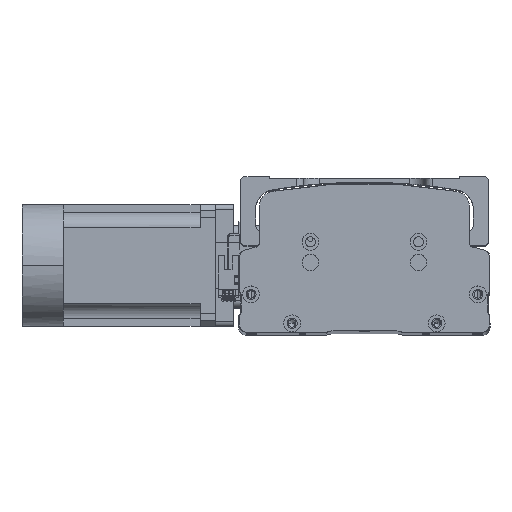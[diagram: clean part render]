
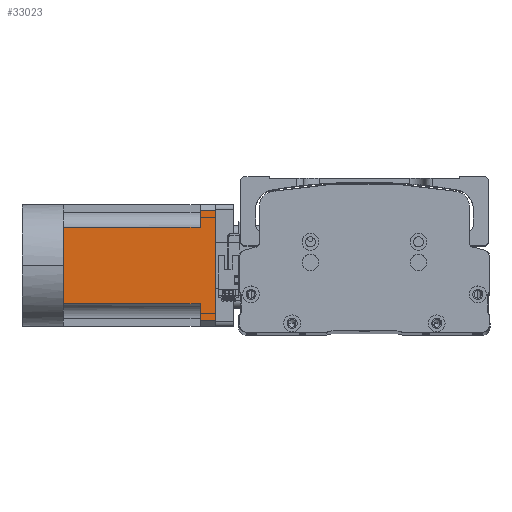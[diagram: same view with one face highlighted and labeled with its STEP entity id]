
A CAD part, top view. The second image highlights one B-rep face of the part: STEP entity #33023.
In plain terms, the highlighted planar face has unit normal (0, -0.003, 1) as drawn and (0, 0, -1) by its records, which use the part's own axes.
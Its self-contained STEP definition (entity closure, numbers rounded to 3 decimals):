
#265 = VECTOR ( 'NONE', #12258, 1000. ) ;
#1969 = EDGE_CURVE ( 'NONE', #13643, #9666, #24131, .T. ) ;
#4137 = VECTOR ( 'NONE', #6621, 1000. ) ;
#4326 = EDGE_CURVE ( 'NONE', #13643, #47612, #6948, .T. ) ;
#4775 = CARTESIAN_POINT ( 'NONE',  ( -36., 90., -40. ) ) ;
#5507 = EDGE_CURVE ( 'NONE', #34772, #7281, #46201, .T. ) ;
#5746 = DIRECTION ( 'NONE',  ( -1., 0., 0. ) ) ;
#5805 = EDGE_CURVE ( 'NONE', #16089, #47301, #48522, .T. ) ;
#6621 = DIRECTION ( 'NONE',  ( -1., 0., 0. ) ) ;
#6663 = EDGE_CURVE ( 'NONE', #47612, #34772, #8977, .T. ) ;
#6775 = DIRECTION ( 'NONE',  ( 0., -1., 0. ) ) ;
#6948 = LINE ( 'NONE', #25483, #14580 ) ;
#7281 = VERTEX_POINT ( 'NONE', #35004 ) ;
#8977 = LINE ( 'NONE', #28079, #47819 ) ;
#9125 = CARTESIAN_POINT ( 'NONE',  ( -40., 0., -40. ) ) ;
#9623 = DIRECTION ( 'NONE',  ( 0., 1., 0. ) ) ;
#9666 = VERTEX_POINT ( 'NONE', #13582 ) ;
#10178 = PLANE ( 'NONE',  #10214 ) ;
#10214 = AXIS2_PLACEMENT_3D ( 'NONE', #25273, #32905, #10340 ) ;
#10269 = LINE ( 'NONE', #27210, #265 ) ;
#10313 = EDGE_CURVE ( 'NONE', #7281, #44478, #33486, .T. ) ;
#10340 = DIRECTION ( 'NONE',  ( -1., 0., 0. ) ) ;
#10370 = VECTOR ( 'NONE', #22407, 1000. ) ;
#12258 = DIRECTION ( 'NONE',  ( 0., 1., 0. ) ) ;
#13582 = CARTESIAN_POINT ( 'NONE',  ( -36., 100., -40. ) ) ;
#13643 = VERTEX_POINT ( 'NONE', #25560 ) ;
#14580 = VECTOR ( 'NONE', #6775, 1000. ) ;
#15161 = ORIENTED_EDGE ( 'NONE', *, *, #1969, .F. ) ;
#16089 = VERTEX_POINT ( 'NONE', #26609 ) ;
#16473 = LINE ( 'NONE', #9125, #25240 ) ;
#18463 = ORIENTED_EDGE ( 'NONE', *, *, #4326, .T. ) ;
#18849 = DIRECTION ( 'NONE',  ( 0., -1., 0. ) ) ;
#20076 = ORIENTED_EDGE ( 'NONE', *, *, #6663, .T. ) ;
#22407 = DIRECTION ( 'NONE',  ( -1., 0., 0. ) ) ;
#24131 = LINE ( 'NONE', #47911, #4137 ) ;
#24206 = ORIENTED_EDGE ( 'NONE', *, *, #5805, .T. ) ;
#25039 = EDGE_CURVE ( 'NONE', #47301, #25740, #30391, .T. ) ;
#25240 = VECTOR ( 'NONE', #35448, 1000. ) ;
#25273 = CARTESIAN_POINT ( 'NONE',  ( -40., -27., -40. ) ) ;
#25483 = CARTESIAN_POINT ( 'NONE',  ( 36., -27., -40. ) ) ;
#25501 = CARTESIAN_POINT ( 'NONE',  ( -40., 0., -40. ) ) ;
#25560 = CARTESIAN_POINT ( 'NONE',  ( 36., 100., -40. ) ) ;
#25740 = VERTEX_POINT ( 'NONE', #4775 ) ;
#26029 = CARTESIAN_POINT ( 'NONE',  ( 36., 90., -40. ) ) ;
#26159 = VECTOR ( 'NONE', #18849, 1000. ) ;
#26609 = CARTESIAN_POINT ( 'NONE',  ( -25., 0., -40. ) ) ;
#26707 = FACE_OUTER_BOUND ( 'NONE', #41756, .T. ) ;
#27210 = CARTESIAN_POINT ( 'NONE',  ( -36., -27., -40. ) ) ;
#28073 = CARTESIAN_POINT ( 'NONE',  ( -25., 90., -40. ) ) ;
#28079 = CARTESIAN_POINT ( 'NONE',  ( -40., 90., -40. ) ) ;
#28994 = DIRECTION ( 'NONE',  ( -1., 0., 0. ) ) ;
#29048 = CARTESIAN_POINT ( 'NONE',  ( 25., 90., -40. ) ) ;
#30040 = CARTESIAN_POINT ( 'NONE',  ( 25., -27., -40. ) ) ;
#30391 = LINE ( 'NONE', #37252, #10370 ) ;
#31804 = EDGE_CURVE ( 'NONE', #25740, #9666, #10269, .T. ) ;
#32336 = VECTOR ( 'NONE', #28994, 1000. ) ;
#32905 = DIRECTION ( 'NONE',  ( 0., 0., -1. ) ) ;
#33023 = ADVANCED_FACE ( 'NONE', ( #26707 ), #10178, .T. ) ;
#33486 = LINE ( 'NONE', #25501, #32336 ) ;
#34073 = ORIENTED_EDGE ( 'NONE', *, *, #31804, .T. ) ;
#34772 = VERTEX_POINT ( 'NONE', #29048 ) ;
#35004 = CARTESIAN_POINT ( 'NONE',  ( 25., 0., -40. ) ) ;
#35448 = DIRECTION ( 'NONE',  ( -1., 0., 0. ) ) ;
#35939 = CARTESIAN_POINT ( 'NONE',  ( -25., -27., -40. ) ) ;
#36715 = ORIENTED_EDGE ( 'NONE', *, *, #25039, .T. ) ;
#37252 = CARTESIAN_POINT ( 'NONE',  ( -40., 90., -40. ) ) ;
#37831 = EDGE_CURVE ( 'NONE', #44478, #16089, #16473, .T. ) ;
#39582 = ORIENTED_EDGE ( 'NONE', *, *, #5507, .T. ) ;
#41756 = EDGE_LOOP ( 'NONE', ( #15161, #18463, #20076, #39582, #47491, #44988, #24206, #36715, #34073 ) ) ;
#44478 = VERTEX_POINT ( 'NONE', #47613 ) ;
#44988 = ORIENTED_EDGE ( 'NONE', *, *, #37831, .T. ) ;
#46148 = VECTOR ( 'NONE', #9623, 1000. ) ;
#46201 = LINE ( 'NONE', #30040, #26159 ) ;
#47301 = VERTEX_POINT ( 'NONE', #28073 ) ;
#47491 = ORIENTED_EDGE ( 'NONE', *, *, #10313, .T. ) ;
#47612 = VERTEX_POINT ( 'NONE', #26029 ) ;
#47613 = CARTESIAN_POINT ( 'NONE',  ( 0., 0., -40. ) ) ;
#47819 = VECTOR ( 'NONE', #5746, 1000. ) ;
#47911 = CARTESIAN_POINT ( 'NONE',  ( -40., 100., -40. ) ) ;
#48522 = LINE ( 'NONE', #35939, #46148 ) ;
